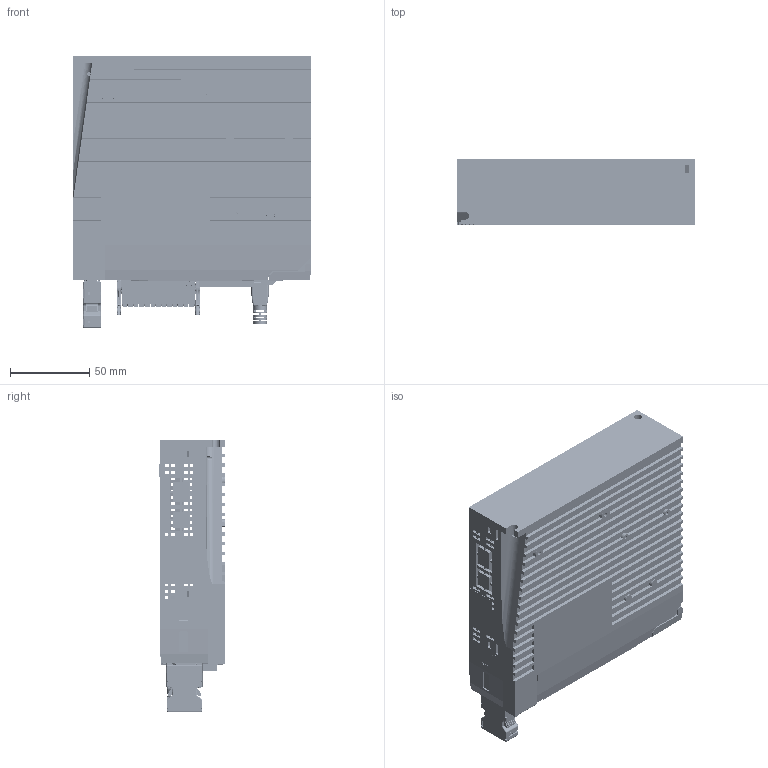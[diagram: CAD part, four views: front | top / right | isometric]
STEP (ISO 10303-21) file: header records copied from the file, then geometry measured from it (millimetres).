
FILE_DESCRIPTION((''),'2;1');
FILE_NAME('M56S-21A8ECN','2023-08-15T13:57:45',('ms27526'),(''),'CREO PARAMETRIC BY PTC INC, 2018100','CREO PARAMETRIC BY PTC INC, 2018100','');
FILE_SCHEMA(('CONFIG_CONTROL_DESIGN'));
Products named in the file (1): M56S-21A8ECN
Bounding box: 150.3 x 41.2 x 171.63 mm (x, y, z)
Volume: 168746.3 mm3; surface area: 248629.8 mm2
Topology: 31 solids, 88 shells, 15486 faces, 42094 edges, 26406 vertices
Faces by surface type: plane 8438, cylinder 4525, cone 1150, bspline 717, torus 441, sphere 177, extrusion 38
Entity records: 541877 total; most frequent: CARTESIAN_POINT 156884, ORIENTED_EDGE 82471, DIRECTION 76210, EDGE_CURVE 41618, VECTOR 27818, LINE 27780, VERTEX_POINT 26406, AXIS2_PLACEMENT_3D 24196
